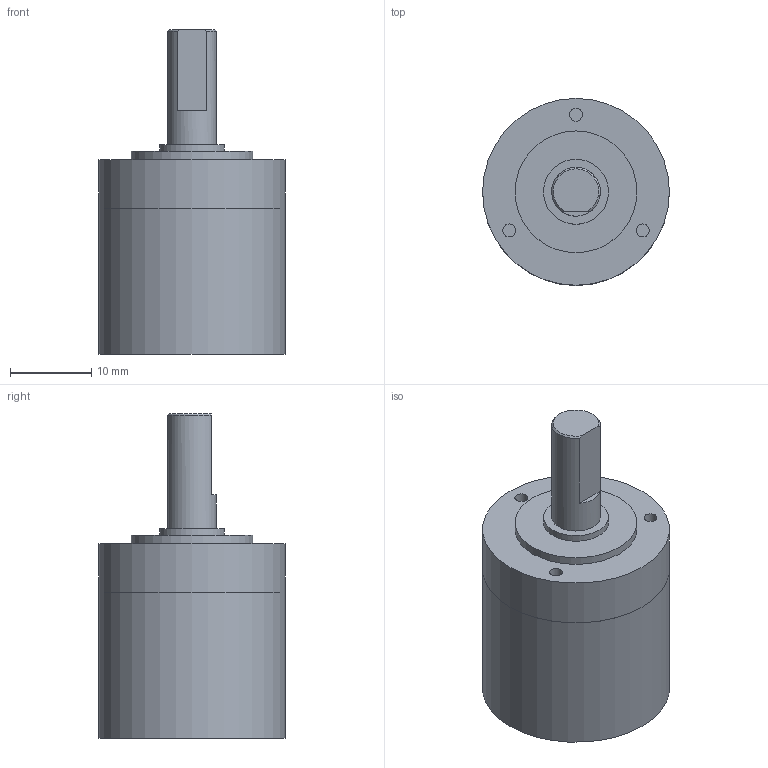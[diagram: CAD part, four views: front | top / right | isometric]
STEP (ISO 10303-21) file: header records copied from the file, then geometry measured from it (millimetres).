
FILE_DESCRIPTION(/* description */ (''),/* implementation_level */ '2;1');
FILE_NAME(/* name */ '23-1_1stage.stp',/* time_stamp */ '2016-09-19T15:44:37+02:00',/* author */ ('DR. FRITZ FAULHABER GmbH & Co. KG'),/* organization */ ('DR. FRITZ FAULHABER GmbH & Co. KG'),/* preprocessor_version */ 'ST-DEVELOPER v16',/* originating_system */ 'SIEMENS PLM Software NX 10.0',/* authorisation */ '');
FILE_SCHEMA (('AUTOMOTIVE_DESIGN { 1 0 10303 214 3 1 1 1 }'));
Length unit declared in the file: millimetre
Products named in the file (1): huge18D0E11Eqv3e
Bounding box: 23 x 23 x 40 mm (x, y, z)
Volume: 8662.6 mm3; surface area: 3496.7 mm2
Topology: 1 solids, 1 shells, 39 faces, 64 edges, 43 vertices
Faces by surface type: plane 20, cylinder 17, cone 2
Full cylindrical faces by diameter (mm): 1.6 x3, 6 x1, 8 x1, 8.76 x1, 8.96 x1, 15 x1, 16 x1, 16.54 x1, 20 x2, 21.6 x2, 22.99 x1, 23 x2
Entity records: 840 total; most frequent: DIRECTION 158, CARTESIAN_POINT 129, ORIENTED_EDGE 86, AXIS2_PLACEMENT_3D 77, EDGE_LOOP 73, FACE_BOUND 65, EDGE_CURVE 43, VERTEX_POINT 40
